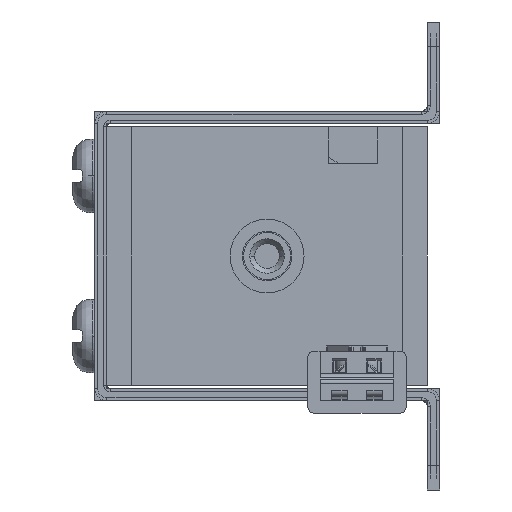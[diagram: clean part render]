
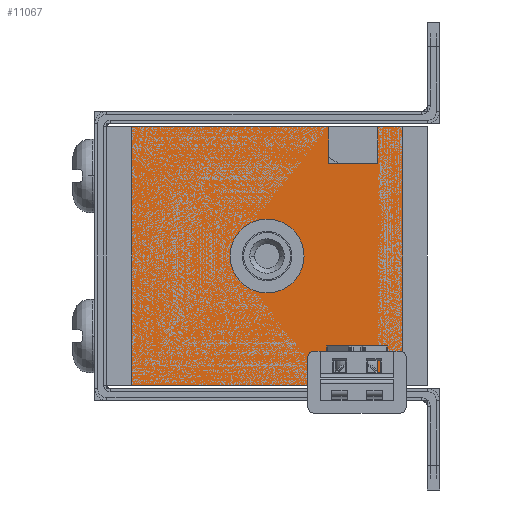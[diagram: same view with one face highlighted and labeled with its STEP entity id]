
A CAD part, left-side view. The second image highlights one B-rep face of the part: STEP entity #11067.
In plain terms, the highlighted planar face has unit normal (-1, 0, 0).
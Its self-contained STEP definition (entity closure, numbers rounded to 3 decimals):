
#7185=DIRECTION('',(0.,-1.,0.));
#7186=VECTOR('',#7185,16.);
#7187=CARTESIAN_POINT('',(-27.,11.,-10.5));
#7188=LINE('',#7187,#7186);
#7247=DIRECTION('',(0.,-1.,0.));
#7248=VECTOR('',#7247,2.);
#7249=CARTESIAN_POINT('',(-27.,-9.,-10.5));
#7250=LINE('',#7249,#7248);
#7905=DIRECTION('',(0.,-1.,0.));
#7906=VECTOR('',#7905,16.);
#7907=CARTESIAN_POINT('',(-27.,11.,10.5));
#7908=LINE('',#7907,#7906);
#7914=DIRECTION('',(0.,-1.,0.));
#7915=VECTOR('',#7914,2.);
#7916=CARTESIAN_POINT('',(-27.,-9.,10.5));
#7917=LINE('',#7916,#7915);
#7993=CARTESIAN_POINT('',(-27.,0.,0.));
#7994=DIRECTION('',(-1.,0.,0.));
#7995=DIRECTION('',(0.,0.,1.));
#7996=AXIS2_PLACEMENT_3D('',#7993,#7994,#7995);
#7998=CARTESIAN_POINT('',(-27.,0.,0.));
#7999=DIRECTION('',(-1.,0.,0.));
#8000=DIRECTION('',(0.,0.,-1.));
#8001=AXIS2_PLACEMENT_3D('',#7998,#7999,#8000);
#8003=DIRECTION('',(0.,0.,-1.));
#8004=VECTOR('',#8003,21.);
#8005=CARTESIAN_POINT('',(-27.,11.,10.5));
#8006=LINE('',#8005,#8004);
#8007=DIRECTION('',(0.,0.,-1.));
#8008=VECTOR('',#8007,3.);
#8009=CARTESIAN_POINT('',(-27.,-5.,10.5));
#8010=LINE('',#8009,#8008);
#8011=DIRECTION('',(0.,-1.,0.));
#8012=VECTOR('',#8011,4.);
#8013=CARTESIAN_POINT('',(-27.,-5.,7.5));
#8014=LINE('',#8013,#8012);
#8015=DIRECTION('',(0.,0.,-1.));
#8016=VECTOR('',#8015,3.);
#8017=CARTESIAN_POINT('',(-27.,-9.,10.5));
#8018=LINE('',#8017,#8016);
#8019=DIRECTION('',(0.,0.,-1.));
#8020=VECTOR('',#8019,21.);
#8021=CARTESIAN_POINT('',(-27.,-11.,10.5));
#8022=LINE('',#8021,#8020);
#8023=DIRECTION('',(0.,0.,1.));
#8024=VECTOR('',#8023,3.);
#8025=CARTESIAN_POINT('',(-27.,-9.,-10.5));
#8026=LINE('',#8025,#8024);
#8027=DIRECTION('',(0.,1.,0.));
#8028=VECTOR('',#8027,4.);
#8029=CARTESIAN_POINT('',(-27.,-9.,-7.5));
#8030=LINE('',#8029,#8028);
#8031=DIRECTION('',(0.,0.,1.));
#8032=VECTOR('',#8031,3.);
#8033=CARTESIAN_POINT('',(-27.,-5.,-10.5));
#8034=LINE('',#8033,#8032);
#9802=CARTESIAN_POINT('',(-27.,-9.,-10.5));
#9804=VERTEX_POINT('',#9802);
#9806=CARTESIAN_POINT('',(-27.,-5.,-10.5));
#9808=VERTEX_POINT('',#9806);
#9810=CARTESIAN_POINT('',(-27.,-5.,10.5));
#9812=VERTEX_POINT('',#9810);
#9814=CARTESIAN_POINT('',(-27.,-9.,10.5));
#9816=VERTEX_POINT('',#9814);
#9818=CARTESIAN_POINT('',(-27.,-9.,-7.5));
#9819=VERTEX_POINT('',#9818);
#9820=CARTESIAN_POINT('',(-27.,-5.,-7.5));
#9821=VERTEX_POINT('',#9820);
#9822=CARTESIAN_POINT('',(-27.,-5.,7.5));
#9823=VERTEX_POINT('',#9822);
#9824=CARTESIAN_POINT('',(-27.,-9.,7.5));
#9825=VERTEX_POINT('',#9824);
#10010=CARTESIAN_POINT('',(-27.,11.,-10.5));
#10012=VERTEX_POINT('',#10010);
#10016=CARTESIAN_POINT('',(-27.,11.,10.5));
#10017=VERTEX_POINT('',#10016);
#10019=CARTESIAN_POINT('',(-27.,-11.,-10.5));
#10021=VERTEX_POINT('',#10019);
#10022=CARTESIAN_POINT('',(-27.,-11.,10.5));
#10023=VERTEX_POINT('',#10022);
#10034=CARTESIAN_POINT('',(-27.,0.,3.));
#10035=CARTESIAN_POINT('',(-27.,0.,-3.));
#10036=VERTEX_POINT('',#10034);
#10037=VERTEX_POINT('',#10035);
#11037=CARTESIAN_POINT('',(-27.,13.,-10.5));
#11038=DIRECTION('',(-1.,0.,0.));
#11039=DIRECTION('',(0.,-1.,0.));
#11040=AXIS2_PLACEMENT_3D('',#11037,#11038,#11039);
#11041=PLANE('',#11040);
#11042=ORIENTED_EDGE('',*,*,#10102,.F.);
#11043=ORIENTED_EDGE('',*,*,#10950,.T.);
#11045=ORIENTED_EDGE('',*,*,#11044,.T.);
#11047=ORIENTED_EDGE('',*,*,#11046,.T.);
#11049=ORIENTED_EDGE('',*,*,#11048,.F.);
#11050=ORIENTED_EDGE('',*,*,#10962,.T.);
#11052=ORIENTED_EDGE('',*,*,#11051,.T.);
#11053=ORIENTED_EDGE('',*,*,#10087,.F.);
#11054=ORIENTED_EDGE('',*,*,#11018,.T.);
#11055=ORIENTED_EDGE('',*,*,#11028,.T.);
#11057=ORIENTED_EDGE('',*,*,#11056,.F.);
#11058=ORIENTED_EDGE('',*,*,#10049,.F.);
#11059=EDGE_LOOP('',(#11042,#11043,#11045,#11047,#11049,#11050,#11052,#11053,
#11054,#11055,#11057,#11058));
#11060=FACE_OUTER_BOUND('',#11059,.F.);
#11062=ORIENTED_EDGE('',*,*,#11061,.T.);
#11064=ORIENTED_EDGE('',*,*,#11063,.T.);
#11065=EDGE_LOOP('',(#11062,#11064));
#11066=FACE_BOUND('',#11065,.F.);
#11067=ADVANCED_FACE('',(#11060,#11066),#11041,.T.);
#7997=CIRCLE('',#7996,3.);
#8002=CIRCLE('',#8001,3.);
#10049=EDGE_CURVE('',#10012,#9808,#7188,.T.);
#10087=EDGE_CURVE('',#9804,#10021,#7250,.T.);
#10102=EDGE_CURVE('',#10017,#10012,#8006,.T.);
#10950=EDGE_CURVE('',#10017,#9812,#7908,.T.);
#10962=EDGE_CURVE('',#9816,#10023,#7917,.T.);
#11018=EDGE_CURVE('',#9804,#9819,#8026,.T.);
#11028=EDGE_CURVE('',#9819,#9821,#8030,.T.);
#11044=EDGE_CURVE('',#9812,#9823,#8010,.T.);
#11046=EDGE_CURVE('',#9823,#9825,#8014,.T.);
#11048=EDGE_CURVE('',#9816,#9825,#8018,.T.);
#11051=EDGE_CURVE('',#10023,#10021,#8022,.T.);
#11056=EDGE_CURVE('',#9808,#9821,#8034,.T.);
#11061=EDGE_CURVE('',#10036,#10037,#7997,.T.);
#11063=EDGE_CURVE('',#10037,#10036,#8002,.T.);
